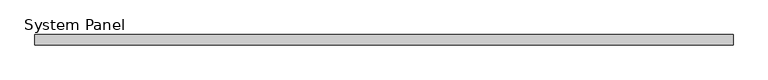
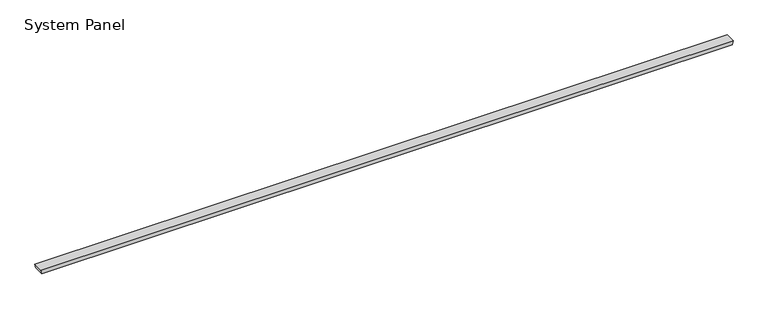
"""IFC4 building model written with IfcOpenShell, lengths in millimetres: plate geometry, System Panel : Equitilt_200mm_Plain_Surfmist."""

from ifc_helpers import new_model, si_unit, frame, origin, place, context, project, spatial, polyline, outline, extrude, source, transform, mapped, element, save


def system_panel_0f48972a(model_context):
    return source(origin(), model_context, "Body", "SweptSolid", [
        extrude(outline(polyline([(0.0, -6782.6149856), (0.0, 6782.6149856), (79.9704237, 6800.0), (79.9704237, -6800.0), (0.0, -6782.6149856)])), frame((0.0, -200.0, 0.0), z_axis=(0.0, 1.0, 0.0), x_axis=(0.0, 0.0, 1.0)), (0.0, 0.0, 1.0), 200.0),
    ])


if __name__ == "__main__":
    model = new_model("IFC4")
    model_context = context("Model", 3, world=origin())
    ifc_project = project(units=[si_unit("LENGTHUNIT", "METRE", prefix="MILLI")], contexts=[model_context])
    site = spatial("IfcSite", under=ifc_project)
    building = spatial("IfcBuilding", under=site)
    placement = place(None, origin())
    system_panel_shape = system_panel_0f48972a(model_context)
    element("IfcPlate", 1, ObjectType="System Panel : Equitilt_200mm_Plain_Surfmist", at=placement, inside=building, context=model_context, shape_type="MappedRepresentation", body=[
        mapped(system_panel_shape, transform((0.0, 0.0, 0.0), x_axis=(1.0, 0.0, 0.0), y_axis=(0.0, 1.0, 0.0), z_axis=(0.0, 0.0, 1.0))),
    ])
    save(model, "model.ifc")
